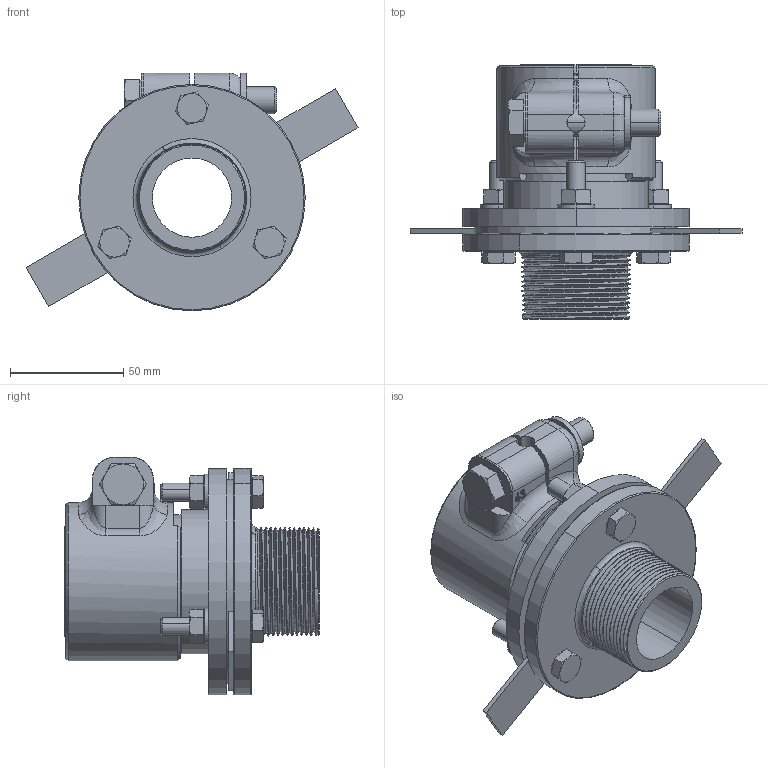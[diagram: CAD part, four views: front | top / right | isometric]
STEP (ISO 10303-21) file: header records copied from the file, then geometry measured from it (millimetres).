
FILE_DESCRIPTION (( 'STEP AP214' ), '1' );
FILE_NAME ('KP_C14-F63-54M.step', '2012-05-23T14:31:45', ( 'robinj' ), ( 'Microsoft' ), 'SwSTEP 2.0', 'SolidWorks 2012', '' );
FILE_SCHEMA (( 'AUTOMOTIVE_DESIGN' ));
Length unit declared in the file: millimetre
Products named in the file (1): KP_C14-F63-54M
Bounding box: 146.62 x 112.5 x 105 mm (x, y, z)
Volume: 253651.8 mm3; surface area: 121195 mm2
Topology: 16 solids, 16 shells, 558 faces, 1294 edges, 774 vertices
Faces by surface type: plane 182, cylinder 160, cone 111, bspline 53, torus 44, sphere 8
Entity records: 34633 total; most frequent: CARTESIAN_POINT 15923, ORIENTED_EDGE 2572, DIRECTION 2568, EDGE_CURVE 1286, AXIS2_PLACEMENT_3D 1036, VERTEX_POINT 774, EDGE_LOOP 616, UNCERTAINTY_MEASURE_WITH_UNIT 576
